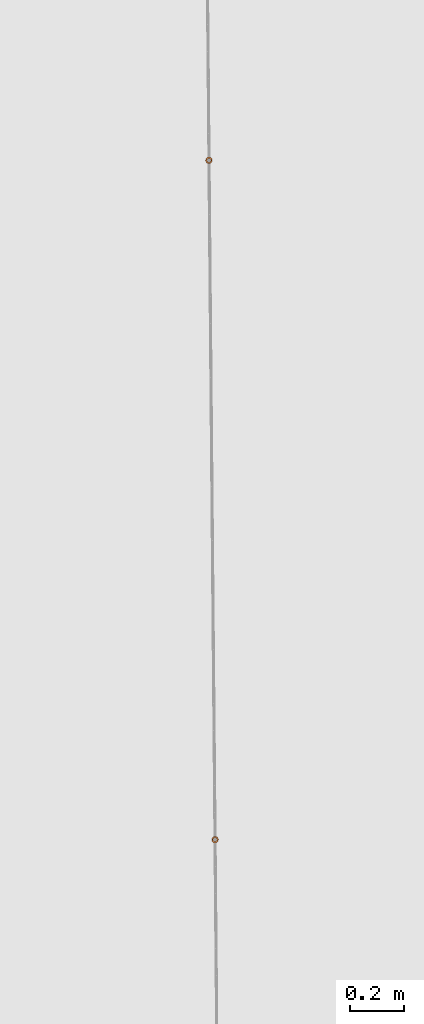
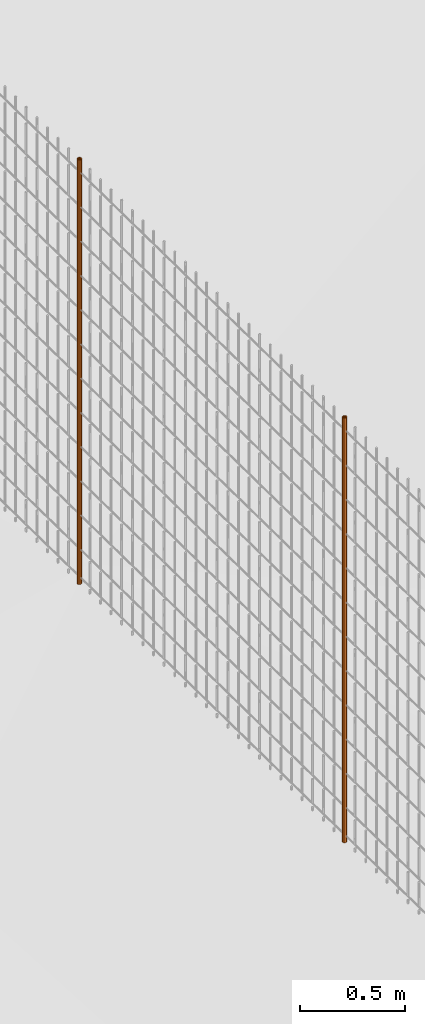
# One storey, part 18 of 1809: 2 proxies, 1 element without a shape of its own.
"""IFC2X3 building model written with IfcOpenShell, lengths in millimetres."""

from ifc_helpers import new_model, entity, si_unit, converted_unit, derived_unit, money_unit, direction, frame, origin_with_axes, place, context, subcontext, project, spatial, faceted_brep, source, transform, mapped, material, type_object, element, aggregate, save


model = new_model("IFC2X3")

# Units and contexts
model_context = context("Model", 3, precision=0.01, world=origin_with_axes(), true_north=direction((0.0, 1.0)))
body_context = subcontext(model_context, "Body", "Model", "MODEL_VIEW")
ifc_project = project(units=[si_unit("LENGTHUNIT", "METRE", prefix="MILLI"), si_unit("AREAUNIT", "SQUARE_METRE"), si_unit("VOLUMEUNIT", "CUBIC_METRE"), converted_unit("PLANEANGLEUNIT", "DEGREE", entity("IfcPlaneAngleMeasure", 0.0174532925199), si_unit("PLANEANGLEUNIT", "RADIAN"), dimensions=[0, 0, 0, 0, 0, 0, 0]), si_unit("SOLIDANGLEUNIT", "STERADIAN"), money_unit("EUR"), converted_unit("TIMEUNIT", "Year", entity("IfcTimeMeasure", 31556926.0), si_unit("TIMEUNIT", "SECOND"), dimensions=[0, 0, 1, 0, 0, 0, 0]), si_unit("MASSUNIT", "GRAM", prefix="KILO"), si_unit("THERMODYNAMICTEMPERATUREUNIT", "DEGREE_CELSIUS"), si_unit("LUMINOUSINTENSITYUNIT", "LUMEN"), si_unit("ENERGYUNIT", "JOULE", prefix="MEGA"), derived_unit("THERMALCONDUCTANCEUNIT", [(si_unit("POWERUNIT", "WATT"), 1), (si_unit("LENGTHUNIT", "METRE"), -1), (si_unit("THERMODYNAMICTEMPERATUREUNIT", "KELVIN"), -1)]), derived_unit("SPECIFICHEATCAPACITYUNIT", [(si_unit("ENERGYUNIT", "JOULE"), 1), (si_unit("MASSUNIT", "GRAM", prefix="KILO"), -1), (si_unit("THERMODYNAMICTEMPERATUREUNIT", "KELVIN"), -1)]), derived_unit("MASSDENSITYUNIT", [(si_unit("MASSUNIT", "GRAM", prefix="KILO"), 1), (si_unit("VOLUMEUNIT", "CUBIC_METRE"), -1)])], contexts=[model_context])

# Site, building, storey
site_placement = place(None, origin_with_axes())
site = spatial("IfcSite", under=ifc_project, at=site_placement, Name="Politse- ja Piirivalveameti ning Päästeameti ühishoone", CompositionType="ELEMENT")
building_placement = place(site_placement, origin_with_axes())
building = spatial("IfcBuilding", under=site, at=building_placement, Name="Politse- ja Piirivalveameti ning Päästeameti ühishoone", CompositionType="ELEMENT")
storey_placement = place(building_placement, origin_with_axes())
storey = spatial("IfcBuildingStorey", under=building, at=storey_placement, Name="Esimene korrus", CompositionType="ELEMENT", Elevation=0.0)

# Proxies
building_element_proxy_type_1 = type_object("IfcBuildingElementProxyType", Name="Railing Type", PredefinedType="NOTDEFINED")
proxy_1_placement = place(storey_placement, frame((-16775.8601056, 25156.7555964, 0.0), z_axis=(0.0, 0.0, 1.0), x_axis=(1.0, 0.0, 0.0)))
proxy_1 = element("IfcBuildingElementProxy", 1, at=proxy_1_placement, inside=storey, type_object=building_element_proxy_type_1, Name="KENNELI PIIRE")
ifc_material = material(Name="Teras - Konstruktsioon")
building_element_proxy_type_2 = type_object("IfcBuildingElementProxyType", Name="IfcBuildingElementProxy", PredefinedType="NOTDEFINED")
shared_shape_1 = source(origin_with_axes(), body_context, "Body", "Brep", [
    faceted_brep([(0.0, -12.0, 0.0), (2.083778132, -11.8176930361, 0.0), (2.083778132, -11.8176930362, 2480.0), (0.0, -12.0, 2480.0), (-2.083778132, -11.8176930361, 0.0), (-4.10424171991, -11.2763114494, 0.0), (-6.0, -10.3923048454, 0.0), (-7.71345131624, -9.19253331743, 0.0), (-9.19253331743, -7.71345131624, 0.0), (-10.3923048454, -6.0, 0.0), (-11.2763114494, -4.10424171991, 0.0), (-11.8176930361, -2.083778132, 0.0), (-12.0, 0.0, 0.0), (-11.8176930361, 2.083778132, 0.0), (-11.2763114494, 4.10424171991, 0.0), (-10.3923048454, 6.0, 0.0), (-9.19253331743, 7.71345131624, 0.0), (-7.71345131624, 9.19253331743, 0.0), (-6.0, 10.3923048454, 0.0), (-4.10424171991, 11.2763114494, 0.0), (-2.083778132, 11.8176930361, 0.0), (0.0, 12.0, 0.0), (2.083778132, 11.8176930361, 0.0), (4.10424171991, 11.2763114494, 0.0), (6.0, 10.3923048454, 0.0), (7.71345131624, 9.19253331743, 0.0), (9.19253331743, 7.71345131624, 0.0), (10.3923048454, 6.0, 0.0), (11.2763114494, 4.10424171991, 0.0), (11.8176930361, 2.083778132, 0.0), (12.0, 0.0, 0.0), (11.8176930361, -2.083778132, 0.0), (11.2763114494, -4.10424171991, 0.0), (10.3923048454, -6.0, 0.0), (9.19253331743, -7.71345131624, 0.0), (7.71345131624, -9.19253331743, 0.0), (6.0, -10.3923048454, 0.0), (4.10424171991, -11.2763114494, 0.0), (0.0, -7.0, 0.0), (1.21553724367, -6.89365427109, 0.0), (2.39414100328, -6.5778483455, 0.0), (3.5, -6.06217782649, 0.0), (4.49951326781, -5.36231110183, 0.0), (5.36231110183, -4.49951326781, 0.0), (6.06217782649, -3.5, 0.0), (6.5778483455, -2.39414100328, 0.0), (6.89365427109, -1.21553724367, 0.0), (7.0, 0.0, 0.0), (6.89365427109, 1.21553724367, 0.0), (6.5778483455, 2.39414100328, 0.0), (6.06217782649, 3.5, 0.0), (5.36231110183, 4.49951326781, 0.0), (4.49951326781, 5.36231110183, 0.0), (3.5, 6.06217782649, 0.0), (2.39414100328, 6.5778483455, 0.0), (1.21553724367, 6.89365427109, 0.0), (0.0, 7.0, 0.0), (-1.21553724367, 6.89365427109, 0.0), (-2.39414100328, 6.5778483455, 0.0), (-3.5, 6.06217782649, 0.0), (-4.49951326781, 5.36231110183, 0.0), (-5.36231110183, 4.49951326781, 0.0), (-6.06217782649, 3.5, 0.0), (-6.5778483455, 2.39414100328, 0.0), (-6.89365427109, 1.21553724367, 0.0), (-7.0, 0.0, 0.0), (-6.89365427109, -1.21553724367, 0.0), (-6.5778483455, -2.39414100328, 0.0), (-6.06217782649, -3.5, 0.0), (-5.36231110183, -4.49951326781, 0.0), (-4.49951326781, -5.36231110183, 0.0), (-3.5, -6.06217782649, 0.0), (-2.39414100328, -6.5778483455, 0.0), (-1.21553724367, -6.89365427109, 0.0), (4.1042417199, -11.2763114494, 2480.0), (5.99999999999, -10.3923048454, 2480.0), (7.71345131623, -9.19253331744, 2480.0), (9.19253331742, -7.71345131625, 2480.0), (10.3923048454, -6.00000000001, 2480.0), (11.2763114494, -4.10424171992, 2480.0), (11.8176930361, -2.08377813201, 2480.0), (12.0, 0.0, 2480.0), (11.8176930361, 2.08377813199, 2480.0), (11.2763114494, 4.1042417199, 2480.0), (10.3923048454, 5.99999999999, 2480.0), (9.19253331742, 7.71345131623, 2480.0), (7.71345131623, 9.19253331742, 2480.0), (5.99999999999, 10.3923048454, 2480.0), (4.1042417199, 11.2763114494, 2480.0), (2.083778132, 11.8176930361, 2480.0), (0.0, 12.0, 2480.0), (-2.08377813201, 11.8176930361, 2480.0), (-4.10424171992, 11.2763114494, 2480.0), (-6.00000000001, 10.3923048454, 2480.0), (-7.71345131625, 9.19253331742, 2480.0), (-9.19253331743, 7.71345131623, 2480.0), (-10.3923048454, 5.99999999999, 2480.0), (-11.2763114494, 4.1042417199, 2480.0), (-11.8176930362, 2.08377813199, 2480.0), (-12.0, 0.0, 2480.0), (-11.8176930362, -2.08377813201, 2480.0), (-11.2763114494, -4.10424171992, 2480.0), (-10.3923048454, -6.00000000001, 2480.0), (-9.19253331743, -7.71345131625, 2480.0), (-7.71345131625, -9.19253331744, 2480.0), (-6.00000000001, -10.3923048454, 2480.0), (-4.10424171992, -11.2763114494, 2480.0), (-2.08377813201, -11.8176930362, 2480.0), (0.0, -7.00000000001, 2480.0), (-1.21553724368, -6.8936542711, 2480.0), (-2.39414100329, -6.57784834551, 2480.0), (-3.50000000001, -6.0621778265, 2480.0), (-4.49951326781, -5.36231110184, 2480.0), (-5.36231110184, -4.49951326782, 2480.0), (-6.0621778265, -3.50000000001, 2480.0), (-6.57784834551, -2.39414100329, 2480.0), (-6.89365427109, -1.21553724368, 2480.0), (-7.00000000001, 0.0, 2480.0), (-6.89365427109, 1.21553724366, 2480.0), (-6.57784834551, 2.39414100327, 2480.0), (-6.0621778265, 3.49999999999, 2480.0), (-5.36231110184, 4.4995132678, 2480.0), (-4.49951326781, 5.36231110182, 2480.0), (-3.50000000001, 6.06217782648, 2480.0), (-2.39414100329, 6.57784834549, 2480.0), (-1.21553724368, 6.89365427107, 2480.0), (0.0, 6.99999999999, 2480.0), (1.21553724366, 6.89365427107, 2480.0), (2.39414100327, 6.57784834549, 2480.0), (3.49999999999, 6.06217782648, 2480.0), (4.4995132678, 5.36231110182, 2480.0), (5.36231110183, 4.4995132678, 2480.0), (6.06217782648, 3.49999999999, 2480.0), (6.57784834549, 2.39414100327, 2480.0), (6.89365427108, 1.21553724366, 2480.0), (6.99999999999, 0.0, 2480.0), (6.89365427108, -1.21553724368, 2480.0), (6.57784834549, -2.39414100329, 2480.0), (6.06217782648, -3.50000000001, 2480.0), (5.36231110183, -4.49951326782, 2480.0), (4.4995132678, -5.36231110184, 2480.0), (3.49999999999, -6.0621778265, 2480.0), (2.39414100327, -6.57784834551, 2480.0), (1.21553724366, -6.8936542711, 2480.0)], [[[0, 1, 2, 3]], [[0, 4, 5, 6, 7, 8, 9, 10, 11, 12, 13, 14, 15, 16, 17, 18, 19, 20, 21, 22, 23, 24, 25, 26, 27, 28, 29, 30, 31, 32, 33, 34, 35, 36, 37, 1], [38, 39, 40, 41, 42, 43, 44, 45, 46, 47, 48, 49, 50, 51, 52, 53, 54, 55, 56, 57, 58, 59, 60, 61, 62, 63, 64, 65, 66, 67, 68, 69, 70, 71, 72, 73]], [[1, 37, 74, 2]], [[3, 2, 74, 75, 76, 77, 78, 79, 80, 81, 82, 83, 84, 85, 86, 87, 88, 89, 90, 91, 92, 93, 94, 95, 96, 97, 98, 99, 100, 101, 102, 103, 104, 105, 106, 107], [108, 109, 110, 111, 112, 113, 114, 115, 116, 117, 118, 119, 120, 121, 122, 123, 124, 125, 126, 127, 128, 129, 130, 131, 132, 133, 134, 135, 136, 137, 138, 139, 140, 141, 142, 143]], [[4, 0, 3, 107]], [[5, 4, 107, 106]], [[6, 5, 106, 105]], [[7, 6, 105, 104]], [[8, 7, 104, 103]], [[9, 8, 103, 102]], [[10, 9, 102, 101]], [[11, 10, 101, 100]], [[12, 11, 100, 99]], [[13, 12, 99, 98]], [[14, 13, 98, 97]], [[15, 14, 97, 96]], [[16, 15, 96, 95]], [[17, 16, 95, 94]], [[18, 17, 94, 93]], [[19, 18, 93, 92]], [[20, 19, 92, 91]], [[21, 20, 91, 90]], [[22, 21, 90, 89]], [[23, 22, 89, 88]], [[24, 23, 88, 87]], [[25, 24, 87, 86]], [[26, 25, 86, 85]], [[27, 26, 85, 84]], [[28, 27, 84, 83]], [[29, 28, 83, 82]], [[30, 29, 82, 81]], [[31, 30, 81, 80]], [[32, 31, 80, 79]], [[33, 32, 79, 78]], [[34, 33, 78, 77]], [[35, 34, 77, 76]], [[36, 35, 76, 75]], [[37, 36, 75, 74]], [[39, 38, 108, 143]], [[40, 39, 143, 142]], [[41, 40, 142, 141]], [[42, 41, 141, 140]], [[43, 42, 140, 139]], [[44, 43, 139, 138]], [[45, 44, 138, 137]], [[46, 45, 137, 136]], [[47, 46, 136, 135]], [[48, 47, 135, 134]], [[49, 48, 134, 133]], [[50, 49, 133, 132]], [[51, 50, 132, 131]], [[52, 51, 131, 130]], [[53, 52, 130, 129]], [[54, 53, 129, 128]], [[55, 54, 128, 127]], [[56, 55, 127, 126]], [[57, 56, 126, 125]], [[58, 57, 125, 124]], [[59, 58, 124, 123]], [[60, 59, 123, 122]], [[61, 60, 122, 121]], [[62, 61, 121, 120]], [[63, 62, 120, 119]], [[64, 63, 119, 118]], [[65, 64, 118, 117]], [[66, 65, 117, 116]], [[67, 66, 116, 115]], [[68, 67, 115, 114]], [[69, 68, 114, 113]], [[70, 69, 113, 112]], [[71, 70, 112, 111]], [[72, 71, 111, 110]], [[73, 72, 110, 109]], [[38, 73, 109, 108]]]),
])
proxy_2_placement = place(proxy_1_placement, frame((-4936.07716595, -10019.3009842, 0.0), z_axis=(0.0, 0.0, 1.0), x_axis=(1.0, 0.0, 0.0)))
proxy_2 = element("IfcBuildingElementProxy", 2, at=proxy_2_placement, type_object=building_element_proxy_type_2, material=ifc_material, Name="SISEPOST - 001", context=body_context, shape_type="MappedRepresentation", body=[
    mapped(shared_shape_1, transform((0.0, 0.0, 0.0), x_axis=(-0.999960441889, -0.00889464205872, 0.0), y_axis=(0.00889464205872, -0.999960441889, 0.0), z_axis=(0.0, 0.0, 1.0))),
])
shared_shape_2 = source(origin_with_axes(), body_context, "Body", "Brep", [
    faceted_brep([(0.0, -12.0, 0.0), (2.083778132, -11.8176930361, 0.0), (2.083778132, -11.8176930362, 2480.0), (0.0, -12.0, 2480.0), (-2.083778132, -11.8176930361, 0.0), (-4.10424171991, -11.2763114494, 0.0), (-6.0, -10.3923048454, 0.0), (-7.71345131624, -9.19253331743, 0.0), (-9.19253331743, -7.71345131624, 0.0), (-10.3923048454, -6.0, 0.0), (-11.2763114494, -4.10424171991, 0.0), (-11.8176930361, -2.083778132, 0.0), (-12.0, 0.0, 0.0), (-11.8176930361, 2.083778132, 0.0), (-11.2763114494, 4.10424171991, 0.0), (-10.3923048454, 6.0, 0.0), (-9.19253331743, 7.71345131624, 0.0), (-7.71345131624, 9.19253331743, 0.0), (-6.0, 10.3923048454, 0.0), (-4.10424171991, 11.2763114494, 0.0), (-2.083778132, 11.8176930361, 0.0), (0.0, 12.0, 0.0), (2.083778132, 11.8176930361, 0.0), (4.10424171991, 11.2763114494, 0.0), (6.0, 10.3923048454, 0.0), (7.71345131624, 9.19253331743, 0.0), (9.19253331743, 7.71345131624, 0.0), (10.3923048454, 6.0, 0.0), (11.2763114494, 4.10424171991, 0.0), (11.8176930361, 2.083778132, 0.0), (12.0, 0.0, 0.0), (11.8176930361, -2.083778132, 0.0), (11.2763114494, -4.10424171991, 0.0), (10.3923048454, -6.0, 0.0), (9.19253331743, -7.71345131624, 0.0), (7.71345131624, -9.19253331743, 0.0), (6.0, -10.3923048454, 0.0), (4.10424171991, -11.2763114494, 0.0), (0.0, -7.0, 0.0), (1.21553724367, -6.89365427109, 0.0), (2.39414100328, -6.5778483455, 0.0), (3.5, -6.06217782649, 0.0), (4.49951326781, -5.36231110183, 0.0), (5.36231110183, -4.49951326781, 0.0), (6.06217782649, -3.5, 0.0), (6.5778483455, -2.39414100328, 0.0), (6.89365427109, -1.21553724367, 0.0), (7.0, 0.0, 0.0), (6.89365427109, 1.21553724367, 0.0), (6.5778483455, 2.39414100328, 0.0), (6.06217782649, 3.5, 0.0), (5.36231110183, 4.49951326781, 0.0), (4.49951326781, 5.36231110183, 0.0), (3.5, 6.06217782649, 0.0), (2.39414100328, 6.5778483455, 0.0), (1.21553724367, 6.89365427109, 0.0), (0.0, 7.0, 0.0), (-1.21553724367, 6.89365427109, 0.0), (-2.39414100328, 6.5778483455, 0.0), (-3.5, 6.06217782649, 0.0), (-4.49951326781, 5.36231110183, 0.0), (-5.36231110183, 4.49951326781, 0.0), (-6.06217782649, 3.5, 0.0), (-6.5778483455, 2.39414100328, 0.0), (-6.89365427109, 1.21553724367, 0.0), (-7.0, 0.0, 0.0), (-6.89365427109, -1.21553724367, 0.0), (-6.5778483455, -2.39414100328, 0.0), (-6.06217782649, -3.5, 0.0), (-5.36231110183, -4.49951326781, 0.0), (-4.49951326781, -5.36231110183, 0.0), (-3.5, -6.06217782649, 0.0), (-2.39414100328, -6.5778483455, 0.0), (-1.21553724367, -6.89365427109, 0.0), (4.1042417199, -11.2763114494, 2480.0), (5.99999999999, -10.3923048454, 2480.0), (7.71345131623, -9.19253331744, 2480.0), (9.19253331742, -7.71345131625, 2480.0), (10.3923048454, -6.00000000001, 2480.0), (11.2763114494, -4.10424171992, 2480.0), (11.8176930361, -2.08377813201, 2480.0), (12.0, 0.0, 2480.0), (11.8176930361, 2.08377813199, 2480.0), (11.2763114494, 4.1042417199, 2480.0), (10.3923048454, 5.99999999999, 2480.0), (9.19253331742, 7.71345131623, 2480.0), (7.71345131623, 9.19253331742, 2480.0), (5.99999999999, 10.3923048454, 2480.0), (4.1042417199, 11.2763114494, 2480.0), (2.083778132, 11.8176930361, 2480.0), (0.0, 12.0, 2480.0), (-2.08377813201, 11.8176930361, 2480.0), (-4.10424171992, 11.2763114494, 2480.0), (-6.00000000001, 10.3923048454, 2480.0), (-7.71345131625, 9.19253331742, 2480.0), (-9.19253331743, 7.71345131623, 2480.0), (-10.3923048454, 5.99999999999, 2480.0), (-11.2763114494, 4.1042417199, 2480.0), (-11.8176930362, 2.08377813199, 2480.0), (-12.0, 0.0, 2480.0), (-11.8176930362, -2.08377813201, 2480.0), (-11.2763114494, -4.10424171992, 2480.0), (-10.3923048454, -6.00000000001, 2480.0), (-9.19253331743, -7.71345131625, 2480.0), (-7.71345131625, -9.19253331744, 2480.0), (-6.00000000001, -10.3923048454, 2480.0), (-4.10424171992, -11.2763114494, 2480.0), (-2.08377813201, -11.8176930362, 2480.0), (0.0, -7.00000000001, 2480.0), (-1.21553724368, -6.89365427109, 2480.0), (-2.39414100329, -6.57784834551, 2480.0), (-3.50000000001, -6.0621778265, 2480.0), (-4.49951326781, -5.36231110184, 2480.0), (-5.36231110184, -4.49951326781, 2480.0), (-6.0621778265, -3.50000000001, 2480.0), (-6.57784834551, -2.39414100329, 2480.0), (-6.89365427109, -1.21553724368, 2480.0), (-7.00000000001, 0.0, 2480.0), (-6.89365427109, 1.21553724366, 2480.0), (-6.57784834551, 2.39414100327, 2480.0), (-6.0621778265, 3.49999999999, 2480.0), (-5.36231110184, 4.4995132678, 2480.0), (-4.49951326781, 5.36231110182, 2480.0), (-3.50000000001, 6.06217782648, 2480.0), (-2.39414100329, 6.57784834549, 2480.0), (-1.21553724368, 6.89365427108, 2480.0), (0.0, 6.99999999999, 2480.0), (1.21553724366, 6.89365427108, 2480.0), (2.39414100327, 6.57784834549, 2480.0), (3.49999999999, 6.06217782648, 2480.0), (4.4995132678, 5.36231110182, 2480.0), (5.36231110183, 4.4995132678, 2480.0), (6.06217782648, 3.49999999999, 2480.0), (6.57784834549, 2.39414100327, 2480.0), (6.89365427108, 1.21553724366, 2480.0), (6.99999999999, 0.0, 2480.0), (6.89365427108, -1.21553724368, 2480.0), (6.57784834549, -2.39414100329, 2480.0), (6.06217782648, -3.50000000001, 2480.0), (5.36231110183, -4.49951326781, 2480.0), (4.4995132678, -5.36231110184, 2480.0), (3.49999999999, -6.0621778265, 2480.0), (2.39414100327, -6.57784834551, 2480.0), (1.21553724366, -6.89365427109, 2480.0)], [[[0, 1, 2, 3]], [[0, 4, 5, 6, 7, 8, 9, 10, 11, 12, 13, 14, 15, 16, 17, 18, 19, 20, 21, 22, 23, 24, 25, 26, 27, 28, 29, 30, 31, 32, 33, 34, 35, 36, 37, 1], [38, 39, 40, 41, 42, 43, 44, 45, 46, 47, 48, 49, 50, 51, 52, 53, 54, 55, 56, 57, 58, 59, 60, 61, 62, 63, 64, 65, 66, 67, 68, 69, 70, 71, 72, 73]], [[1, 37, 74, 2]], [[3, 2, 74, 75, 76, 77, 78, 79, 80, 81, 82, 83, 84, 85, 86, 87, 88, 89, 90, 91, 92, 93, 94, 95, 96, 97, 98, 99, 100, 101, 102, 103, 104, 105, 106, 107], [108, 109, 110, 111, 112, 113, 114, 115, 116, 117, 118, 119, 120, 121, 122, 123, 124, 125, 126, 127, 128, 129, 130, 131, 132, 133, 134, 135, 136, 137, 138, 139, 140, 141, 142, 143]], [[4, 0, 3, 107]], [[5, 4, 107, 106]], [[6, 5, 106, 105]], [[7, 6, 105, 104]], [[8, 7, 104, 103]], [[9, 8, 103, 102]], [[10, 9, 102, 101]], [[11, 10, 101, 100]], [[12, 11, 100, 99]], [[13, 12, 99, 98]], [[14, 13, 98, 97]], [[15, 14, 97, 96]], [[16, 15, 96, 95]], [[17, 16, 95, 94]], [[18, 17, 94, 93]], [[19, 18, 93, 92]], [[20, 19, 92, 91]], [[21, 20, 91, 90]], [[22, 21, 90, 89]], [[23, 22, 89, 88]], [[24, 23, 88, 87]], [[25, 24, 87, 86]], [[26, 25, 86, 85]], [[27, 26, 85, 84]], [[28, 27, 84, 83]], [[29, 28, 83, 82]], [[30, 29, 82, 81]], [[31, 30, 81, 80]], [[32, 31, 80, 79]], [[33, 32, 79, 78]], [[34, 33, 78, 77]], [[35, 34, 77, 76]], [[36, 35, 76, 75]], [[37, 36, 75, 74]], [[39, 38, 108, 143]], [[40, 39, 143, 142]], [[41, 40, 142, 141]], [[42, 41, 141, 140]], [[43, 42, 140, 139]], [[44, 43, 139, 138]], [[45, 44, 138, 137]], [[46, 45, 137, 136]], [[47, 46, 136, 135]], [[48, 47, 135, 134]], [[49, 48, 134, 133]], [[50, 49, 133, 132]], [[51, 50, 132, 131]], [[52, 51, 131, 130]], [[53, 52, 130, 129]], [[54, 53, 129, 128]], [[55, 54, 128, 127]], [[56, 55, 127, 126]], [[57, 56, 126, 125]], [[58, 57, 125, 124]], [[59, 58, 124, 123]], [[60, 59, 123, 122]], [[61, 60, 122, 121]], [[62, 61, 121, 120]], [[63, 62, 120, 119]], [[64, 63, 119, 118]], [[65, 64, 118, 117]], [[66, 65, 117, 116]], [[67, 66, 116, 115]], [[68, 67, 115, 114]], [[69, 68, 114, 113]], [[70, 69, 113, 112]], [[71, 70, 112, 111]], [[72, 71, 111, 110]], [[73, 72, 110, 109]], [[38, 73, 109, 108]]]),
])
proxy_3_placement = place(proxy_1_placement, frame((-4913.8405608, -12519.202089, 0.0), z_axis=(0.0, 0.0, 1.0), x_axis=(1.0, 0.0, 0.0)))
proxy_3 = element("IfcBuildingElementProxy", 3, at=proxy_3_placement, type_object=building_element_proxy_type_2, material=ifc_material, Name="SISEPOST - 001", context=body_context, shape_type="MappedRepresentation", body=[
    mapped(shared_shape_2, transform((0.0, 0.0, 0.0), x_axis=(-0.999960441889, -0.00889464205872, 0.0), y_axis=(0.00889464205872, -0.999960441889, 0.0), z_axis=(0.0, 0.0, 1.0))),
])
aggregate(proxy_1, [proxy_2, proxy_3])

save(model, "model.ifc")
